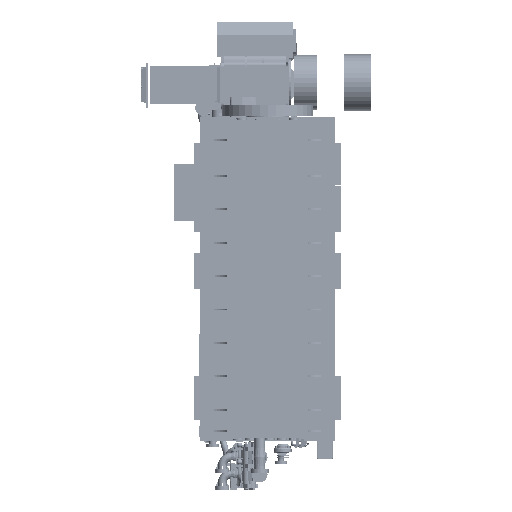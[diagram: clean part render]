
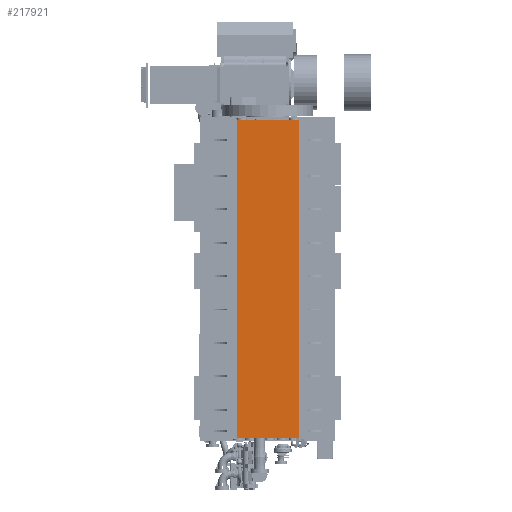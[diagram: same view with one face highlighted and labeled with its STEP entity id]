
A CAD part, front view. The second image highlights one B-rep face of the part: STEP entity #217921.
In plain terms, the highlighted planar face has unit normal (0, -1, 0).
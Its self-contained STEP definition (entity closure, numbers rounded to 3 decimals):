
#214374=DIRECTION('',(0.,0.,-1.));
#214375=VECTOR('',#214374,5050.);
#214376=CARTESIAN_POINT('',(490.,-1372.,622.));
#214377=LINE('',#214376,#214375);
#214378=DIRECTION('',(0.,0.,1.));
#214379=VECTOR('',#214378,5050.);
#214380=CARTESIAN_POINT('',(-490.,-1372.,-4428.));
#214381=LINE('',#214380,#214379);
#215466=DIRECTION('',(1.,0.,0.));
#215467=VECTOR('',#215466,980.);
#215468=CARTESIAN_POINT('',(-490.,-1372.,622.));
#215469=LINE('',#215468,#215467);
#215530=DIRECTION('',(1.,0.,0.));
#215531=VECTOR('',#215530,980.);
#215532=CARTESIAN_POINT('',(-490.,-1372.,-4428.));
#215533=LINE('',#215532,#215531);
#217062=CARTESIAN_POINT('',(-490.,-1372.,622.));
#217063=CARTESIAN_POINT('',(490.,-1372.,622.));
#217064=VERTEX_POINT('',#217062);
#217065=VERTEX_POINT('',#217063);
#217102=CARTESIAN_POINT('',(-490.,-1372.,-4428.));
#217103=CARTESIAN_POINT('',(490.,-1372.,-4428.));
#217104=VERTEX_POINT('',#217102);
#217105=VERTEX_POINT('',#217103);
#217906=CARTESIAN_POINT('',(-490.,-1372.,607.));
#217907=DIRECTION('',(0.,-1.,0.));
#217908=DIRECTION('',(1.,0.,0.));
#217909=AXIS2_PLACEMENT_3D('',#217906,#217907,#217908);
#217910=PLANE('',#217909);
#217912=ORIENTED_EDGE('',*,*,#217911,.T.);
#217914=ORIENTED_EDGE('',*,*,#217913,.F.);
#217916=ORIENTED_EDGE('',*,*,#217915,.T.);
#217918=ORIENTED_EDGE('',*,*,#217917,.T.);
#217919=EDGE_LOOP('',(#217912,#217914,#217916,#217918));
#217920=FACE_OUTER_BOUND('',#217919,.F.);
#217921=ADVANCED_FACE('',(#217920),#217910,.T.);
#217911=EDGE_CURVE('',#217065,#217105,#214377,.T.);
#217913=EDGE_CURVE('',#217104,#217105,#215533,.T.);
#217915=EDGE_CURVE('',#217104,#217064,#214381,.T.);
#217917=EDGE_CURVE('',#217064,#217065,#215469,.T.);
